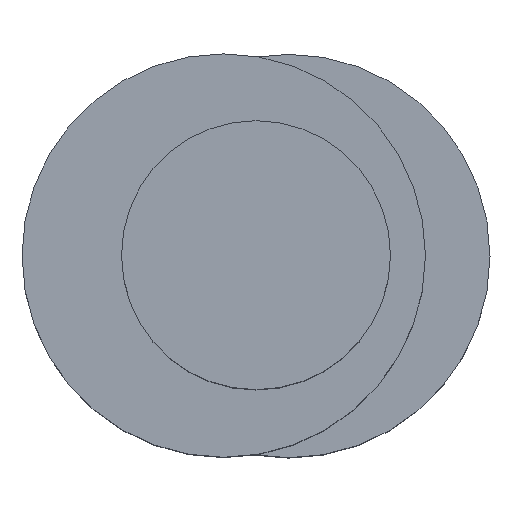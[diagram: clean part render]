
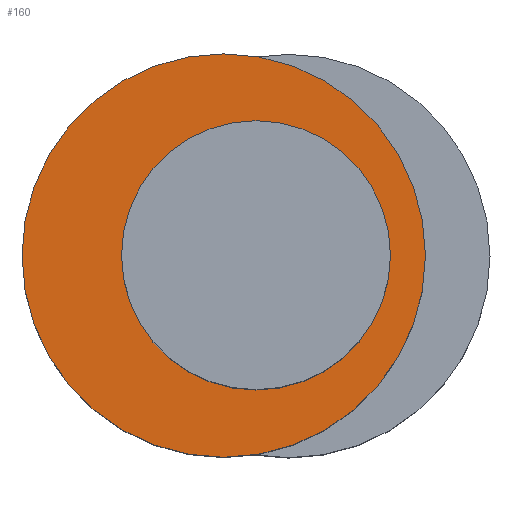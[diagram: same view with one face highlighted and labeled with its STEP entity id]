
A CAD part, top view. The second image highlights one B-rep face of the part: STEP entity #160.
In plain terms, the highlighted planar face has unit normal (0, 0, 1).
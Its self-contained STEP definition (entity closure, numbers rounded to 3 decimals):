
#119 = EDGE_CURVE('',#120,#120,#122,.T.);
#120 = VERTEX_POINT('',#121);
#121 = CARTESIAN_POINT('',(6.3,0.,24.));
#122 = CIRCLE('',#123,7.5);
#123 = AXIS2_PLACEMENT_3D('',#124,#125,#126);
#124 = CARTESIAN_POINT('',(-1.2,0.,24.));
#125 = DIRECTION('',(0.,0.,1.));
#126 = DIRECTION('',(1.,0.,-0.));
#160 = ADVANCED_FACE('',(#161,#164),#175,.T.);
#161 = FACE_BOUND('',#162,.T.);
#162 = EDGE_LOOP('',(#163));
#163 = ORIENTED_EDGE('',*,*,#119,.T.);
#164 = FACE_BOUND('',#165,.T.);
#165 = EDGE_LOOP('',(#166));
#166 = ORIENTED_EDGE('',*,*,#167,.F.);
#167 = EDGE_CURVE('',#168,#168,#170,.T.);
#168 = VERTEX_POINT('',#169);
#169 = CARTESIAN_POINT('',(5.,0.,24.));
#170 = CIRCLE('',#171,5.);
#171 = AXIS2_PLACEMENT_3D('',#172,#173,#174);
#172 = CARTESIAN_POINT('',(0.,0.,24.));
#173 = DIRECTION('',(0.,0.,1.));
#174 = DIRECTION('',(1.,0.,-0.));
#175 = PLANE('',#176);
#176 = AXIS2_PLACEMENT_3D('',#177,#178,#179);
#177 = CARTESIAN_POINT('',(-1.2,0.,24.));
#178 = DIRECTION('',(0.,0.,1.));
#179 = DIRECTION('',(1.,0.,-0.));
